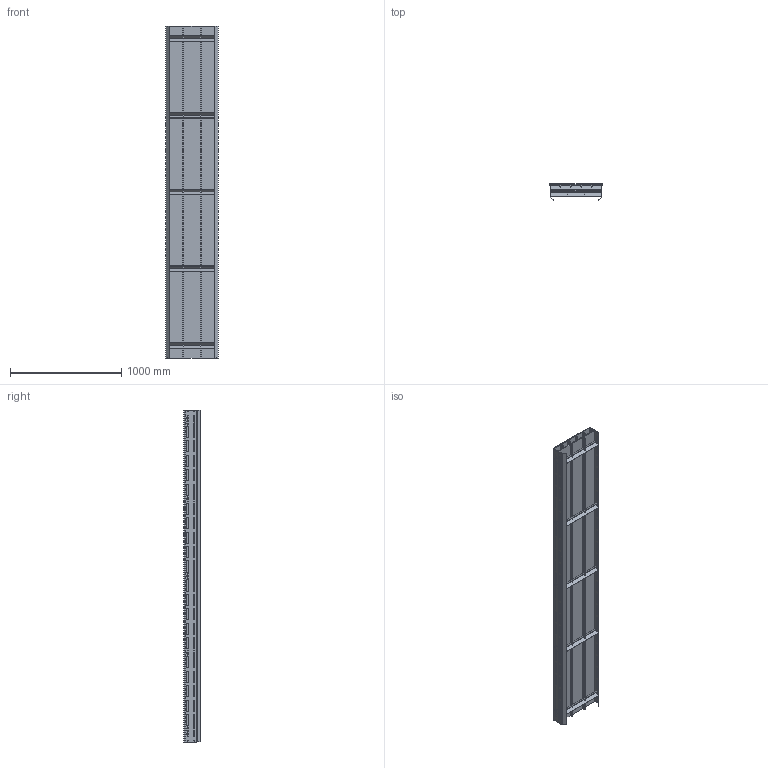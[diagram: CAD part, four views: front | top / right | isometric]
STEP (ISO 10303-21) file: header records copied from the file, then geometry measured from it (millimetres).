
FILE_DESCRIPTION (( 'STEP AP214' ), '1' );
FILE_NAME ('03.102S470.N FS-470-MTS2-100.INOX straight section L=2990.STEP', '2025-02-11T10:23:30', ( '' ), ( '' ), 'SwSTEP 2.0', 'SolidWorks 2024', '' );
FILE_SCHEMA (( 'AUTOMOTIVE_DESIGN' ));
Length unit declared in the file: millimetre
Products named in the file (1): 03.102S470.N FS-470-MTS2-100.INOX straight section L=2990
Bounding box: 472.5 x 145.63 x 2990 mm (x, y, z)
Volume: 30451386.9 mm3; surface area: 10554069.1 mm2
Topology: 22 solids, 22 shells, 1580 faces, 4608 edges, 3072 vertices
Faces by surface type: cylinder 930, plane 650
Entity records: 54556 total; most frequent: DIRECTION 9622, CARTESIAN_POINT 9285, ORIENTED_EDGE 9216, EDGE_CURVE 4608, AXIS2_PLACEMENT_3D 3441, VERTEX_POINT 3072, LINE 2740, VECTOR 2740
